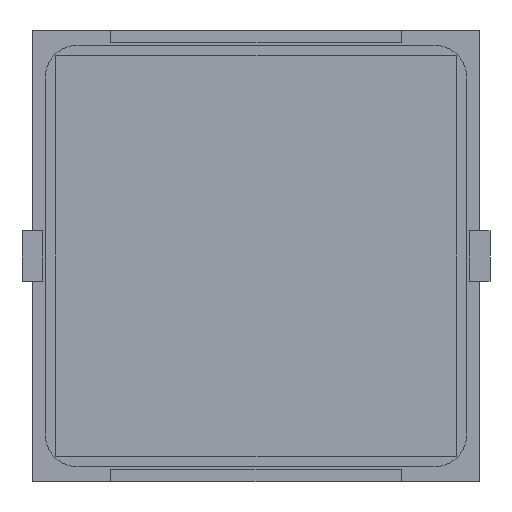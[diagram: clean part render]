
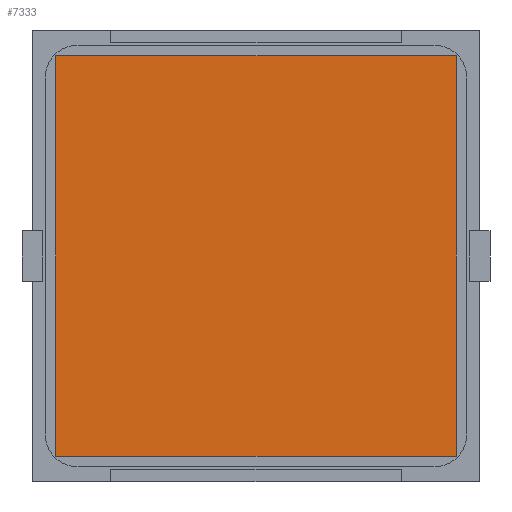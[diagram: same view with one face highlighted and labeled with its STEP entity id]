
A CAD part, front view. The second image highlights one B-rep face of the part: STEP entity #7333.
In plain terms, the highlighted planar face has unit normal (0, -1, 0).
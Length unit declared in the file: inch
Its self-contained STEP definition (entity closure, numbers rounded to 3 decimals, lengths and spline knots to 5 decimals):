
#35 = LINE ( 'NONE', #3877, #7963 ) ;
#471 = CARTESIAN_POINT ( 'NONE',  ( -0.7874, -0.005, 0.7874 ) ) ;
#804 = CARTESIAN_POINT ( 'NONE',  ( 0.7874, -0.005, -0.7874 ) ) ;
#1026 = PLANE ( 'NONE',  #5755 ) ;
#1529 = EDGE_CURVE ( 'NONE', #10449, #4699, #3097, .T. ) ;
#2294 = VECTOR ( 'NONE', #6986, 39.37008 ) ;
#2306 = DIRECTION ( 'NONE',  ( 1., 0., 0. ) ) ;
#3097 = LINE ( 'NONE', #3157, #2294 ) ;
#3157 = CARTESIAN_POINT ( 'NONE',  ( 0.7874, -0.005, 0.7874 ) ) ;
#3542 = ORIENTED_EDGE ( 'NONE', *, *, #7227, .T. ) ;
#3877 = CARTESIAN_POINT ( 'NONE',  ( -0.7874, -0.005, -0.7874 ) ) ;
#4340 = CARTESIAN_POINT ( 'NONE',  ( 0.7874, -0.005, -0.7874 ) ) ;
#4622 = DIRECTION ( 'NONE',  ( 0., 0., 1. ) ) ;
#4624 = ORIENTED_EDGE ( 'NONE', *, *, #1529, .T. ) ;
#4699 = VERTEX_POINT ( 'NONE', #471 ) ;
#4982 = DIRECTION ( 'NONE',  ( 0., 0., 1. ) ) ;
#5755 = AXIS2_PLACEMENT_3D ( 'NONE', #7541, #8746, #4982 ) ;
#6173 = EDGE_CURVE ( 'NONE', #6689, #10449, #9531, .T. ) ;
#6637 = CARTESIAN_POINT ( 'NONE',  ( -0.7874, -0.005, -0.7874 ) ) ;
#6689 = VERTEX_POINT ( 'NONE', #4340 ) ;
#6958 = VECTOR ( 'NONE', #2306, 39.37008 ) ;
#6986 = DIRECTION ( 'NONE',  ( -1., 0., 0. ) ) ;
#7227 = EDGE_CURVE ( 'NONE', #9233, #6689, #10777, .T. ) ;
#7333 = ADVANCED_FACE ( 'NONE', ( #7590 ), #1026, .T. ) ;
#7410 = EDGE_CURVE ( 'NONE', #4699, #9233, #35, .T. ) ;
#7541 = CARTESIAN_POINT ( 'NONE',  ( 0.7874, -0.005, 0.7874 ) ) ;
#7590 = FACE_OUTER_BOUND ( 'NONE', #8607, .T. ) ;
#7698 = VECTOR ( 'NONE', #4622, 39.37008 ) ;
#7715 = DIRECTION ( 'NONE',  ( 0., 0., -1. ) ) ;
#7963 = VECTOR ( 'NONE', #7715, 39.37008 ) ;
#8258 = ORIENTED_EDGE ( 'NONE', *, *, #7410, .T. ) ;
#8607 = EDGE_LOOP ( 'NONE', ( #10004, #4624, #8258, #3542 ) ) ;
#8746 = DIRECTION ( 'NONE',  ( 0., -1., 0. ) ) ;
#9233 = VERTEX_POINT ( 'NONE', #6637 ) ;
#9531 = LINE ( 'NONE', #804, #7698 ) ;
#10004 = ORIENTED_EDGE ( 'NONE', *, *, #6173, .T. ) ;
#10162 = CARTESIAN_POINT ( 'NONE',  ( 0.7874, -0.005, 0.7874 ) ) ;
#10449 = VERTEX_POINT ( 'NONE', #10162 ) ;
#10777 = LINE ( 'NONE', #10915, #6958 ) ;
#10915 = CARTESIAN_POINT ( 'NONE',  ( 0.7874, -0.005, -0.7874 ) ) ;
